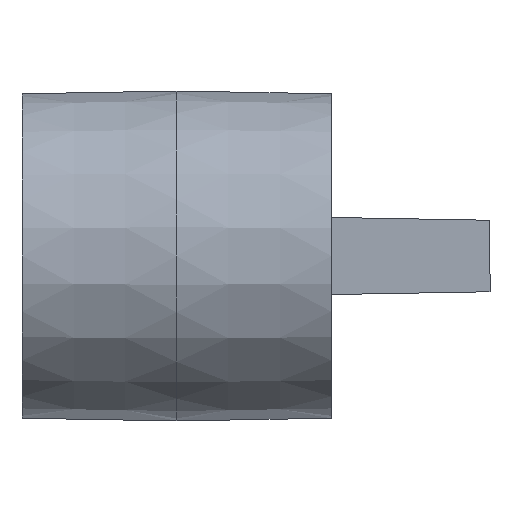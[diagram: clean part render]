
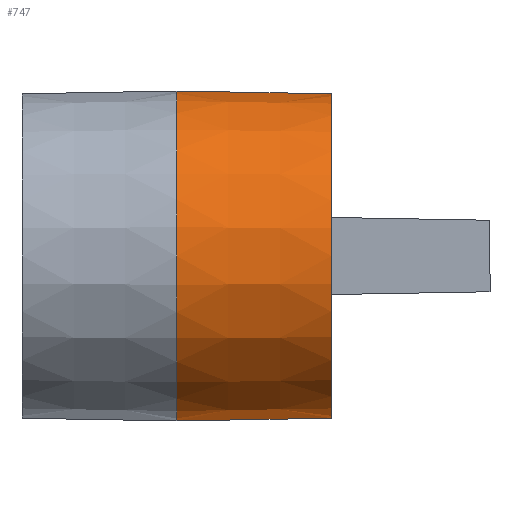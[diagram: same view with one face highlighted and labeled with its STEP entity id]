
A CAD part, left-side view. The second image highlights one B-rep face of the part: STEP entity #747.
In plain terms, the highlighted conical face has half-angle 1 degrees and reference radius 4 mm.
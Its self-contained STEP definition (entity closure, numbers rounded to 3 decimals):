
#1 = AXIS2_PLACEMENT_3D ( 'NONE', #1873, #725, #2029 ) ;
#99 = DIRECTION ( 'NONE',  ( 0., 0., 1. ) ) ;
#255 = DIRECTION ( 'NONE',  ( 0., 1., 0. ) ) ;
#259 = CONICAL_SURFACE ( 'NONE', #739, 4., 0.017 ) ;
#435 = CIRCLE ( 'NONE', #1, 3.935 ) ;
#511 = DIRECTION ( 'NONE',  ( 0., 1., 0. ) ) ;
#620 = EDGE_CURVE ( 'NONE', #957, #752, #1694, .T. ) ;
#725 = DIRECTION ( 'NONE',  ( 0., -1., 0. ) ) ;
#728 = CARTESIAN_POINT ( 'NONE',  ( -9.25, -3.75, -3.935 ) ) ;
#739 = AXIS2_PLACEMENT_3D ( 'NONE', #1331, #255, #99 ) ;
#747 = ADVANCED_FACE ( 'NONE', ( #1776 ), #259, .T. ) ;
#752 = VERTEX_POINT ( 'NONE', #2045 ) ;
#944 = VERTEX_POINT ( 'NONE', #1886 ) ;
#957 = VERTEX_POINT ( 'NONE', #728 ) ;
#973 = EDGE_CURVE ( 'NONE', #1249, #944, #1655, .T. ) ;
#1227 = EDGE_LOOP ( 'NONE', ( #1286, #1311, #1313, #1315 ) ) ;
#1249 = VERTEX_POINT ( 'NONE', #2065 ) ;
#1284 = CARTESIAN_POINT ( 'NONE',  ( -9.25, 0., 4. ) ) ;
#1286 = ORIENTED_EDGE ( 'NONE', *, *, #620, .F. ) ;
#1311 = ORIENTED_EDGE ( 'NONE', *, *, #2242, .F. ) ;
#1313 = ORIENTED_EDGE ( 'NONE', *, *, #973, .T. ) ;
#1315 = ORIENTED_EDGE ( 'NONE', *, *, #1608, .F. ) ;
#1331 = CARTESIAN_POINT ( 'NONE',  ( -9.25, 0., 0. ) ) ;
#1370 = AXIS2_PLACEMENT_3D ( 'NONE', #1652, #511, #1825 ) ;
#1479 = DIRECTION ( 'NONE',  ( 0., 1., 0.017 ) ) ;
#1608 = EDGE_CURVE ( 'NONE', #752, #944, #1821, .T. ) ;
#1652 = CARTESIAN_POINT ( 'NONE',  ( -9.25, 0., 0. ) ) ;
#1655 = LINE ( 'NONE', #1284, #2047 ) ;
#1694 = LINE ( 'NONE', #2114, #1725 ) ;
#1725 = VECTOR ( 'NONE', #2124, 1000. ) ;
#1776 = FACE_OUTER_BOUND ( 'NONE', #1227, .T. ) ;
#1821 = CIRCLE ( 'NONE', #1370, 4. ) ;
#1825 = DIRECTION ( 'NONE',  ( -1., 0., 0. ) ) ;
#1873 = CARTESIAN_POINT ( 'NONE',  ( -9.25, -3.75, 0. ) ) ;
#1886 = CARTESIAN_POINT ( 'NONE',  ( -9.25, 0., 4. ) ) ;
#2029 = DIRECTION ( 'NONE',  ( 0., 0., 1. ) ) ;
#2045 = CARTESIAN_POINT ( 'NONE',  ( -9.25, 0., -4. ) ) ;
#2047 = VECTOR ( 'NONE', #1479, 1000. ) ;
#2065 = CARTESIAN_POINT ( 'NONE',  ( -9.25, -3.75, 3.935 ) ) ;
#2114 = CARTESIAN_POINT ( 'NONE',  ( -9.25, 0., -4. ) ) ;
#2124 = DIRECTION ( 'NONE',  ( 0., 1., -0.017 ) ) ;
#2242 = EDGE_CURVE ( 'NONE', #1249, #957, #435, .T. ) ;
